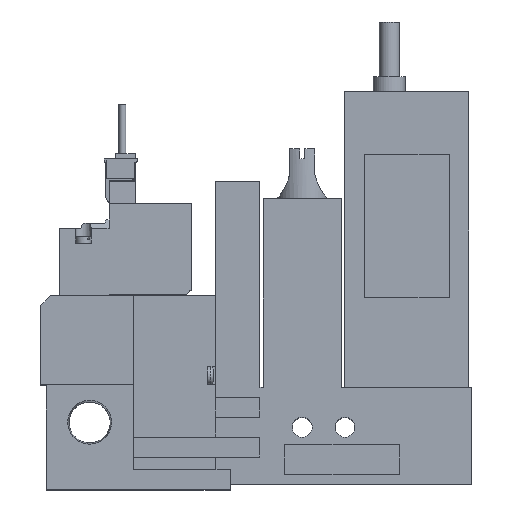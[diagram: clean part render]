
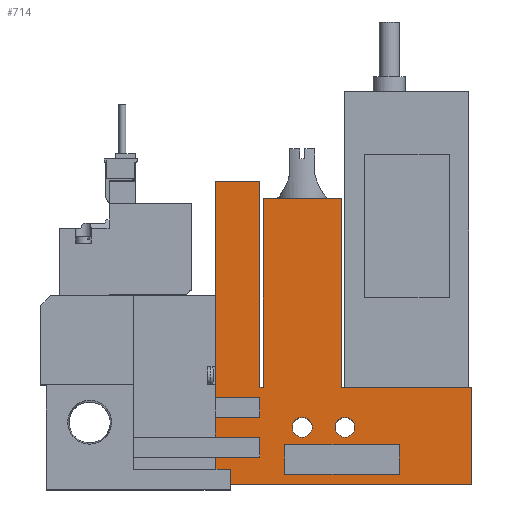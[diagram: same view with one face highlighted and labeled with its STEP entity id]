
A CAD part, top view. The second image highlights one B-rep face of the part: STEP entity #714.
In plain terms, the highlighted planar face has unit normal (0, 0, 1).
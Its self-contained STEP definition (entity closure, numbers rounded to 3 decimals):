
#714=ADVANCED_FACE('',(#1494,#1495,#1496,#1497),#1498,.T.);
#1494=FACE_OUTER_BOUND('',#2435,.T.);
#1495=FACE_BOUND('',#2436,.T.);
#1496=FACE_BOUND('',#2437,.T.);
#1497=FACE_BOUND('',#2438,.T.);
#1498=PLANE('',#2439);
#2435=EDGE_LOOP('',(#5219,#5220,#5221,#5222,#5223,#5224,#5225,#5226,#5227,#5228,#5229,#5230,#5231,#5232,#5233,#5234,#5235,#5236));
#2436=EDGE_LOOP('',(#5237,#5238,#5239,#5240));
#2437=EDGE_LOOP('',(#5241));
#2438=EDGE_LOOP('',(#5242));
#2439=AXIS2_PLACEMENT_3D('',#5243,#5244,#5245);
#5219=ORIENTED_EDGE('',*,*,#6654,.T.);
#5220=ORIENTED_EDGE('',*,*,#6627,.T.);
#5221=ORIENTED_EDGE('',*,*,#6613,.T.);
#5222=ORIENTED_EDGE('',*,*,#6658,.T.);
#5223=ORIENTED_EDGE('',*,*,#6729,.T.);
#5224=ORIENTED_EDGE('',*,*,#6682,.T.);
#5225=ORIENTED_EDGE('',*,*,#6749,.T.);
#5226=ORIENTED_EDGE('',*,*,#6724,.T.);
#5227=ORIENTED_EDGE('',*,*,#6597,.T.);
#5228=ORIENTED_EDGE('',*,*,#6765,.T.);
#5229=ORIENTED_EDGE('',*,*,#6688,.T.);
#5230=ORIENTED_EDGE('',*,*,#6748,.T.);
#5231=ORIENTED_EDGE('',*,*,#6766,.T.);
#5232=ORIENTED_EDGE('',*,*,#6738,.T.);
#5233=ORIENTED_EDGE('',*,*,#6735,.T.);
#5234=ORIENTED_EDGE('',*,*,#6697,.T.);
#5235=ORIENTED_EDGE('',*,*,#6721,.T.);
#5236=ORIENTED_EDGE('',*,*,#6767,.T.);
#5237=ORIENTED_EDGE('',*,*,#6762,.T.);
#5238=ORIENTED_EDGE('',*,*,#6768,.T.);
#5239=ORIENTED_EDGE('',*,*,#6607,.T.);
#5240=ORIENTED_EDGE('',*,*,#6706,.T.);
#5241=ORIENTED_EDGE('',*,*,#6769,.T.);
#5242=ORIENTED_EDGE('',*,*,#6764,.T.);
#5243=CARTESIAN_POINT('',(0.0,0.0,10.0));
#5244=DIRECTION('',(0.0,0.0,1.0));
#5245=DIRECTION('',(1.0,0.0,0.0));
#6597=EDGE_CURVE('',#8058,#8062,#8064,.T.);
#6607=EDGE_CURVE('',#8077,#8082,#8084,.T.);
#6613=EDGE_CURVE('',#8089,#8094,#8096,.T.);
#6627=EDGE_CURVE('',#8113,#8089,#8119,.T.);
#6654=EDGE_CURVE('',#8170,#8113,#8171,.T.);
#6658=EDGE_CURVE('',#8094,#8174,#8176,.T.);
#6682=EDGE_CURVE('',#8216,#8217,#8218,.T.);
#6688=EDGE_CURVE('',#8228,#8226,#8229,.T.);
#6697=EDGE_CURVE('',#8246,#8244,#8247,.T.);
#6706=EDGE_CURVE('',#8082,#8259,#8261,.T.);
#6721=EDGE_CURVE('',#8244,#8284,#8286,.T.);
#6724=EDGE_CURVE('',#8290,#8058,#8291,.T.);
#6729=EDGE_CURVE('',#8174,#8216,#8297,.T.);
#6735=EDGE_CURVE('',#8305,#8246,#8306,.T.);
#6738=EDGE_CURVE('',#8310,#8305,#8311,.T.);
#6748=EDGE_CURVE('',#8226,#8324,#8326,.T.);
#6749=EDGE_CURVE('',#8217,#8290,#8327,.T.);
#6762=EDGE_CURVE('',#8259,#8345,#8347,.T.);
#6764=EDGE_CURVE('',#8350,#8350,#8351,.T.);
#6765=EDGE_CURVE('',#8062,#8228,#8352,.T.);
#6766=EDGE_CURVE('',#8324,#8310,#8353,.T.);
#6767=EDGE_CURVE('',#8284,#8170,#8354,.T.);
#6768=EDGE_CURVE('',#8345,#8077,#8355,.T.);
#6769=EDGE_CURVE('',#8356,#8356,#8357,.T.);
#8058=VERTEX_POINT('',#10417);
#8062=VERTEX_POINT('',#10423);
#8064=LINE('',#10426,#10427);
#8077=VERTEX_POINT('',#10444);
#8082=VERTEX_POINT('',#10451);
#8084=LINE('',#10454,#10455);
#8089=VERTEX_POINT('',#10460);
#8094=VERTEX_POINT('',#10467);
#8096=LINE('',#10470,#10471);
#8113=VERTEX_POINT('',#10498);
#8119=LINE('',#10507,#10508);
#8170=VERTEX_POINT('',#10585);
#8171=LINE('',#10586,#10587);
#8174=VERTEX_POINT('',#10592);
#8176=LINE('',#10595,#10596);
#8216=VERTEX_POINT('',#10655);
#8217=VERTEX_POINT('',#10656);
#8218=LINE('',#10657,#10658);
#8226=VERTEX_POINT('',#10670);
#8228=VERTEX_POINT('',#10673);
#8229=LINE('',#10674,#10675);
#8244=VERTEX_POINT('',#10697);
#8246=VERTEX_POINT('',#10700);
#8247=LINE('',#10701,#10702);
#8259=VERTEX_POINT('',#10721);
#8261=LINE('',#10724,#10725);
#8284=VERTEX_POINT('',#10759);
#8286=LINE('',#10762,#10763);
#8290=VERTEX_POINT('',#10769);
#8291=LINE('',#10770,#10771);
#8297=LINE('',#10780,#10781);
#8305=VERTEX_POINT('',#10793);
#8306=LINE('',#10794,#10795);
#8310=VERTEX_POINT('',#10801);
#8311=LINE('',#10802,#10803);
#8324=VERTEX_POINT('',#10821);
#8326=LINE('',#10824,#10825);
#8327=LINE('',#10826,#10827);
#8345=VERTEX_POINT('',#10855);
#8347=LINE('',#10858,#10859);
#8350=VERTEX_POINT('',#10862);
#8351=CIRCLE('',#10863,2.0);
#8352=LINE('',#10864,#10865);
#8353=LINE('',#10866,#10867);
#8354=LINE('',#10868,#10869);
#8355=LINE('',#10870,#10871);
#8356=VERTEX_POINT('',#10872);
#8357=CIRCLE('',#10873,2.0);
#10417=CARTESIAN_POINT('',(35.1,5.5,10.0));
#10423=CARTESIAN_POINT('',(35.1,0.0,10.0));
#10426=CARTESIAN_POINT('',(35.1,0.0,10.0));
#10427=VECTOR('',#12213,1.0);
#10444=CARTESIAN_POINT('',(72.1,8.0,10.0));
#10451=CARTESIAN_POINT('',(72.1,2.0,10.0));
#10454=CARTESIAN_POINT('',(72.1,0.0,10.0));
#10455=VECTOR('',#12227,1.0);
#10460=CARTESIAN_POINT('',(44.1,17.5,10.0));
#10467=CARTESIAN_POINT('',(44.1,13.5,10.0));
#10470=CARTESIAN_POINT('',(44.1,0.0,10.0));
#10471=VECTOR('',#12237,1.0);
#10498=CARTESIAN_POINT('',(35.1,17.5,10.0));
#10507=CARTESIAN_POINT('',(0.0,17.5,10.0));
#10508=VECTOR('',#12251,1.0);
#10585=CARTESIAN_POINT('',(35.1,61.0,10.0));
#10586=CARTESIAN_POINT('',(35.1,61.0,10.0));
#10587=VECTOR('',#12278,1.0);
#10592=CARTESIAN_POINT('',(35.1,13.5,10.0));
#10595=CARTESIAN_POINT('',(0.0,13.5,10.0));
#10596=VECTOR('',#12282,1.0);
#10655=CARTESIAN_POINT('',(35.1,9.5,10.0));
#10656=CARTESIAN_POINT('',(44.1,9.5,10.0));
#10657=CARTESIAN_POINT('',(0.0,9.5,10.0));
#10658=VECTOR('',#12311,1.0);
#10670=CARTESIAN_POINT('',(86.6,19.5,10.0));
#10673=CARTESIAN_POINT('',(86.6,0.0,10.0));
#10674=CARTESIAN_POINT('',(86.6,0.0,10.0));
#10675=VECTOR('',#12317,1.0);
#10697=CARTESIAN_POINT('',(44.1,19.5,10.0));
#10700=CARTESIAN_POINT('',(44.75,19.5,10.0));
#10701=CARTESIAN_POINT('',(44.75,19.5,10.0));
#10702=VECTOR('',#12326,1.0);
#10721=CARTESIAN_POINT('',(49.1,2.0,10.0));
#10724=CARTESIAN_POINT('',(0.0,2.0,10.0));
#10725=VECTOR('',#12335,1.0);
#10759=CARTESIAN_POINT('',(44.1,61.0,10.0));
#10762=CARTESIAN_POINT('',(44.1,19.5,10.0));
#10763=VECTOR('',#12354,1.0);
#10769=CARTESIAN_POINT('',(44.1,5.5,10.0));
#10770=CARTESIAN_POINT('',(0.0,5.5,10.0));
#10771=VECTOR('',#12357,1.0);
#10780=CARTESIAN_POINT('',(35.1,0.0,10.0));
#10781=VECTOR('',#12364,1.0);
#10793=CARTESIAN_POINT('',(44.75,57.5,10.0));
#10794=CARTESIAN_POINT('',(44.75,57.5,10.0));
#10795=VECTOR('',#12372,1.0);
#10801=CARTESIAN_POINT('',(60.45,57.5,10.0));
#10802=CARTESIAN_POINT('',(60.45,57.5,10.0));
#10803=VECTOR('',#12375,1.0);
#10821=CARTESIAN_POINT('',(60.45,19.5,10.0));
#10824=CARTESIAN_POINT('',(86.6,19.5,10.0));
#10825=VECTOR('',#12391,1.0);
#10826=CARTESIAN_POINT('',(44.1,0.0,10.0));
#10827=VECTOR('',#12392,1.0);
#10855=CARTESIAN_POINT('',(49.1,8.0,10.0));
#10858=CARTESIAN_POINT('',(49.1,0.0,10.0));
#10859=VECTOR('',#12407,1.0);
#10862=CARTESIAN_POINT('',(63.2,11.5,10.0));
#10863=AXIS2_PLACEMENT_3D('',#12411,#12412,#12413);
#10864=CARTESIAN_POINT('',(18.6,0.0,10.0));
#10865=VECTOR('',#12414,1.0);
#10866=CARTESIAN_POINT('',(60.45,19.5,10.0));
#10867=VECTOR('',#12415,1.0);
#10868=CARTESIAN_POINT('',(44.1,61.0,10.0));
#10869=VECTOR('',#12416,1.0);
#10870=CARTESIAN_POINT('',(0.0,8.0,10.0));
#10871=VECTOR('',#12417,1.0);
#10872=CARTESIAN_POINT('',(54.6,11.5,10.0));
#10873=AXIS2_PLACEMENT_3D('',#12418,#12419,#12420);
#12213=DIRECTION('',(0.0,-1.0,0.0));
#12227=DIRECTION('',(0.0,-1.0,0.0));
#12237=DIRECTION('',(0.0,-1.0,0.0));
#12251=DIRECTION('',(1.0,0.0,0.0));
#12278=DIRECTION('',(0.0,-1.0,0.0));
#12282=DIRECTION('',(-1.0,0.0,0.0));
#12311=DIRECTION('',(1.0,0.0,0.0));
#12317=DIRECTION('',(0.0,1.0,0.0));
#12326=DIRECTION('',(-1.0,0.0,0.0));
#12335=DIRECTION('',(-1.0,0.0,0.0));
#12354=DIRECTION('',(0.0,1.0,0.0));
#12357=DIRECTION('',(-1.0,0.0,0.0));
#12364=DIRECTION('',(0.0,-1.0,0.0));
#12372=DIRECTION('',(0.0,-1.0,0.0));
#12375=DIRECTION('',(-1.0,0.0,0.0));
#12391=DIRECTION('',(-1.0,0.0,0.0));
#12392=DIRECTION('',(0.0,-1.0,0.0));
#12407=DIRECTION('',(0.0,1.0,0.0));
#12411=CARTESIAN_POINT('',(61.2,11.5,10.0));
#12412=DIRECTION('',(0.0,0.0,-1.0));
#12413=DIRECTION('',(1.0,0.0,0.0));
#12414=DIRECTION('',(1.0,0.0,0.0));
#12415=DIRECTION('',(0.0,1.0,0.0));
#12416=DIRECTION('',(-1.0,0.0,0.0));
#12417=DIRECTION('',(1.0,0.0,0.0));
#12418=CARTESIAN_POINT('',(52.6,11.5,10.0));
#12419=DIRECTION('',(0.0,0.0,-1.0));
#12420=DIRECTION('',(1.0,0.0,0.0));
